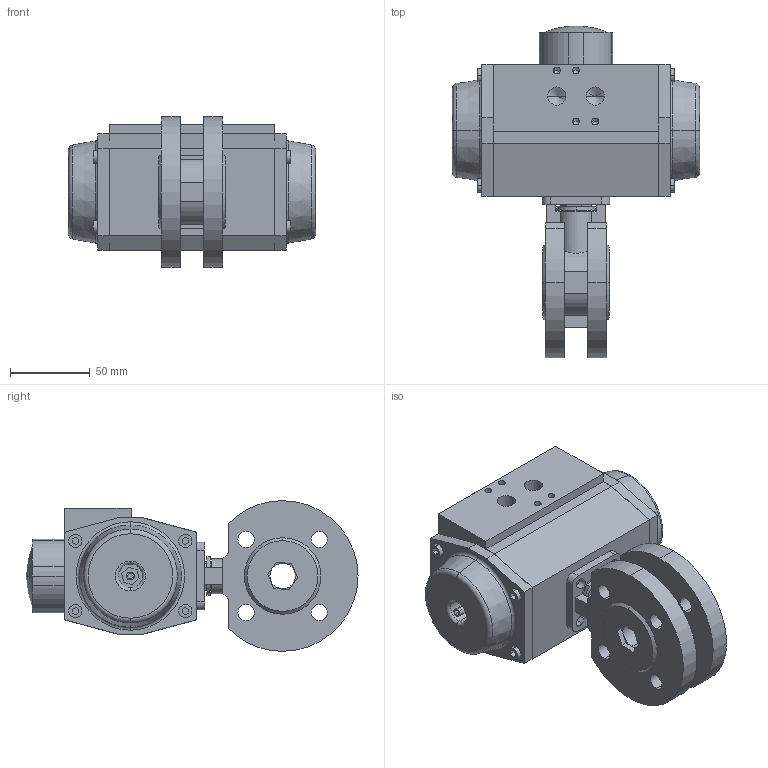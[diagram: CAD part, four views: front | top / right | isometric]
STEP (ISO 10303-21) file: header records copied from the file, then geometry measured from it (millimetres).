
FILE_DESCRIPTION (( 'STEP AP214' ), '1' );
FILE_NAME ('S15D DN15 + AP2.STEP', '2012-04-24T08:19:32', ( 'Jan' ), ( '' ), 'SwSTEP 2.0', 'SolidWorks 2011', '' );
FILE_SCHEMA (( 'AUTOMOTIVE_DESIGN' ));
Length unit declared in the file: millimetre
Products named in the file (3): S15D DN15 + AP2; S15D KK DN15 PN16; AP2_Default<As Machined>
Assembly tree (2 placements, depth 2):
  S15D DN15 + AP2
    AP2_Default<As Machined>
    S15D KK DN15 PN16
Bounding box: 155 x 208.24 x 94.5 mm (x, y, z)
Volume: 1033239.6 mm3; surface area: 115887.8 mm2
Topology: 9 solids, 9 shells, 398 faces, 1005 edges, 643 vertices
Faces by surface type: plane 230, cylinder 118, cone 36, torus 12, sphere 2
Entity records: 13148 total; most frequent: CARTESIAN_POINT 2070, DIRECTION 2065, ORIENTED_EDGE 1954, EDGE_CURVE 977, LINE 689, VECTOR 689, AXIS2_PLACEMENT_3D 688, VERTEX_POINT 643
